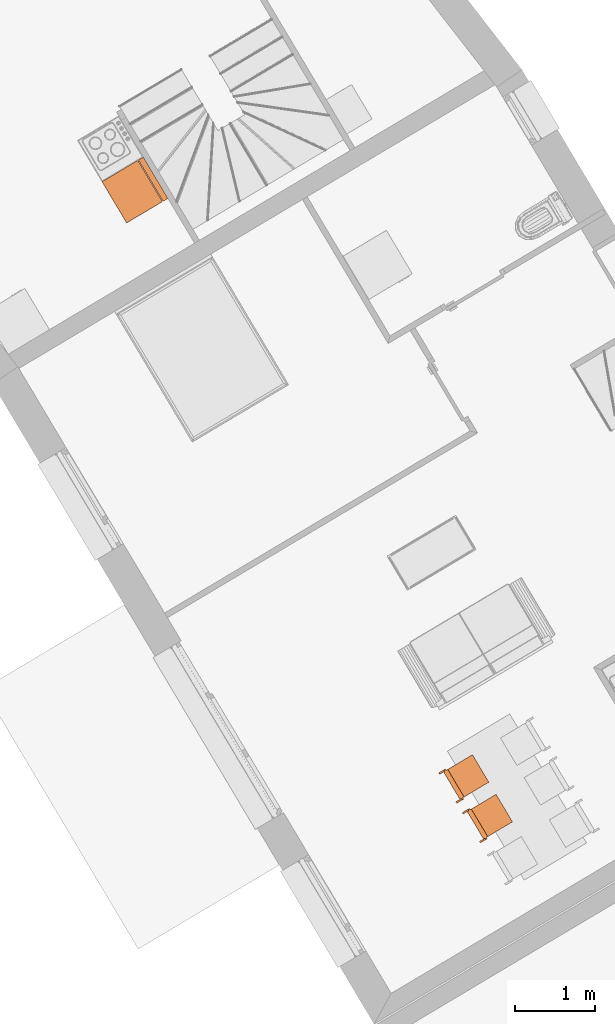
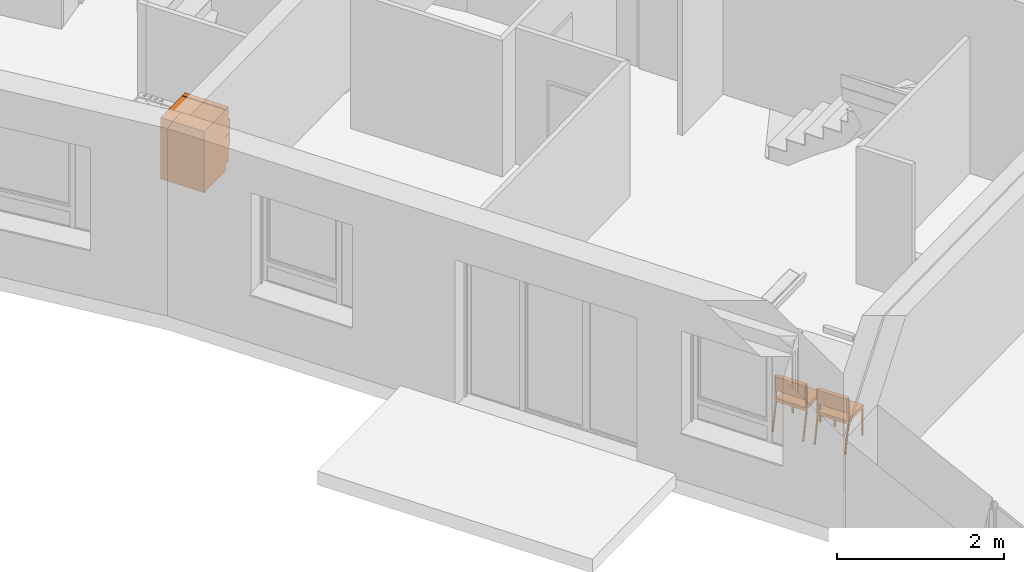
# One storey, part 173 of 195: 3 proxies.
"""IFC2X3 building model written with IfcOpenShell, lengths in metres."""

from ifc_helpers import new_model, entity, si_unit, converted_unit, derived_unit, money_unit, direction, frame, origin_with_axes, place, context, subcontext, project, spatial, open_shell, faceted_brep, surface_model, source, transform, mapped, type_object, element, save


model = new_model("IFC2X3")

# Units and contexts
model_context = context("Model", 3, precision=1e-05, world=origin_with_axes(), true_north=direction((0.0, 1.0)))
body_context = subcontext(model_context, "Body", "Model", "MODEL_VIEW")
ifc_project = project(units=[si_unit("LENGTHUNIT", "METRE"), si_unit("AREAUNIT", "SQUARE_METRE"), si_unit("VOLUMEUNIT", "CUBIC_METRE"), converted_unit("PLANEANGLEUNIT", "DEGREE", entity("IfcPlaneAngleMeasure", 0.0174532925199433), si_unit("PLANEANGLEUNIT", "RADIAN"), dimensions=[0, 0, 0, 0, 0, 0, 0]), money_unit("CHF"), converted_unit("TIMEUNIT", "Year", entity("IfcTimeMeasure", 31557600.0), si_unit("TIMEUNIT", "SECOND"), dimensions=[0, 0, 1, 0, 0, 0, 0]), si_unit("MASSUNIT", "GRAM", prefix="KILO"), si_unit("THERMODYNAMICTEMPERATUREUNIT", "DEGREE_CELSIUS"), si_unit("LUMINOUSINTENSITYUNIT", "LUMEN"), si_unit("ENERGYUNIT", "JOULE", prefix="MEGA"), derived_unit("THERMALCONDUCTANCEUNIT", [(si_unit("POWERUNIT", "WATT"), 1), (si_unit("LENGTHUNIT", "METRE"), -1), (si_unit("THERMODYNAMICTEMPERATUREUNIT", "KELVIN"), -1)]), derived_unit("SPECIFICHEATCAPACITYUNIT", [(si_unit("ENERGYUNIT", "JOULE"), 1), (si_unit("MASSUNIT", "GRAM", prefix="KILO"), -1), (si_unit("THERMODYNAMICTEMPERATUREUNIT", "KELVIN"), -1)]), derived_unit("MASSDENSITYUNIT", [(si_unit("MASSUNIT", "GRAM", prefix="KILO"), 1), (si_unit("VOLUMEUNIT", "CUBIC_METRE"), -1)])], contexts=[model_context])

# Site, building, storey
site_placement = place(None, origin_with_axes())
site = spatial("IfcSite", under=ifc_project, at=site_placement, Name="Site", CompositionType="ELEMENT")
building_placement = place(site_placement, origin_with_axes())
building = spatial("IfcBuilding", under=site, at=building_placement, Name="Bâtiment", CompositionType="ELEMENT")
storey_placement = place(building_placement, origin_with_axes())
storey = spatial("IfcBuildingStorey", under=building, at=storey_placement, Name="rdc", CompositionType="ELEMENT", Elevation=0.0)

# Proxies
building_element_proxy_type = type_object("IfcBuildingElementProxyType", PredefinedType="NOTDEFINED")
shared_shape_1 = source(origin_with_axes(), body_context, "Body", "SurfaceModel", [
    faceted_brep([(0.0, 0.08, 0.1), (0.0, 0.08, 0.9), (-0.6, 0.08, 0.9), (-0.6, 0.08, 0.1), (0.0, 0.6, 0.1), (0.0, 0.6, 0.9), (-0.6, 0.6, 0.9), (-0.6, 0.6, 0.1)], [[[0, 1, 2, 3]], [[4, 5, 1, 0]], [[1, 5, 6, 2]], [[3, 2, 6, 7]], [[0, 3, 7, 4]], [[7, 6, 5, 4]]]),
    faceted_brep([(0.0, 0.08, 0.0), (0.0, 0.08, 0.1), (-0.6, 0.08, 0.1), (-0.6, 0.08, 0.0), (0.0, 0.6, 0.0), (0.0, 0.6, 0.1), (-0.6, 0.6, 0.1), (-0.6, 0.6, 0.0)], [[[0, 1, 2, 3]], [[4, 5, 1, 0]], [[1, 5, 6, 2]], [[3, 2, 6, 7]], [[0, 3, 7, 4]], [[7, 6, 5, 4]]]),
    faceted_brep([(0.0, 0.07, 0.1), (0.0, 0.0, 0.1), (-0.6, 0.0, 0.1), (-0.6, 0.07, 0.1), (0.0, 0.07000000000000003, 0.494), (0.0, 0.0, 0.494), (-0.6, 0.0, 0.494), (-0.6, 0.07000000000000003, 0.494)], [[[0, 1, 2, 3]], [[4, 5, 1, 0]], [[1, 5, 6, 2]], [[3, 2, 6, 7]], [[0, 3, 7, 4]], [[7, 6, 5, 4]]]),
    faceted_brep([(0.0, 0.07, 0.5), (0.0, 0.0, 0.5), (-0.6, 0.0, 0.5), (-0.6, 0.07, 0.5), (0.0, 0.07000000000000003, 0.9), (0.0, 0.0, 0.9), (-0.6, 0.0, 0.9), (-0.6, 0.07000000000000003, 0.9)], [[[0, 1, 2, 3]], [[4, 5, 1, 0]], [[1, 5, 6, 2]], [[3, 2, 6, 7]], [[0, 3, 7, 4]], [[7, 6, 5, 4]]]),
    surface_model("IfcShellBasedSurfaceModel", [(-0.6, -0.03, 0.3), (-0.6, 0.0, 0.3), (-0.6, 0.0, 0.4940000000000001), (-0.6, -0.03, 0.4940000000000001)], [open_shell([[[0, 1, 2, 3]]])]),
    surface_model("IfcShellBasedSurfaceModel", [(-0.6, -0.03, 0.3), (-0.57, -0.03, 0.3), (-0.57, -0.03, 0.4940000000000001), (-0.6, -0.03, 0.4940000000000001)], [open_shell([[[0, 1, 2, 3]]])]),
    surface_model("IfcShellBasedSurfaceModel", [(-0.6, -0.03, 0.5), (-0.6, 0.0, 0.5), (-0.6, 0.0, 0.7), (-0.6, -0.03, 0.7)], [open_shell([[[0, 1, 2, 3]]])]),
    surface_model("IfcShellBasedSurfaceModel", [(-0.6, -0.03, 0.5), (-0.57, -0.03, 0.5), (-0.57, -0.03, 0.7), (-0.6, -0.03, 0.7)], [open_shell([[[0, 1, 2, 3]]])]),
])
proxy_placement = place(storey_placement, frame((9540.328571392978, -1044.371137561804, 57.7), z_axis=(0.0, 0.0, 1.0), x_axis=(-0.5118647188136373, 0.8590660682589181, 0.0)))
element("IfcBuildingElementProxy", 1, at=proxy_placement, inside=storey, type_object=building_element_proxy_type, Name="Obj.-019", context=body_context, shape_type="MappedRepresentation", body=[
    mapped(shared_shape_1, transform((0.0, 0.0, 0.0))),
])
shared_shape_2 = source(origin_with_axes(), body_context, "Body", "Brep", [
    faceted_brep([(-0.03999999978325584, 0.0, 0.0), (-0.03999999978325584, 0.01999999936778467, 0.0), (-0.01999999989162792, 0.01999999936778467, 0.0), (-0.01999999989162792, 0.0, 0.0), (-0.03999999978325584, 0.0, 0.4), (-0.03999999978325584, 0.01999999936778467, 0.4), (-0.01999999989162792, 0.01999999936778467, 0.4), (-0.01999999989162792, 0.0, 0.4)], [[[0, 1, 2, 3]], [[0, 4, 5, 1]], [[1, 5, 6, 2]], [[2, 6, 7, 3]], [[3, 7, 4, 0]], [[7, 6, 5, 4]]]),
    faceted_brep([(-0.4199999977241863, 0.0, 0.0), (-0.4199999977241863, 0.01999999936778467, 0.0), (-0.3999999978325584, 0.01999999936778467, 0.0), (-0.3999999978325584, 0.0, 0.0), (-0.4199999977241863, 0.0, 0.4), (-0.4199999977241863, 0.01999999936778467, 0.4), (-0.3999999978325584, 0.01999999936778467, 0.4), (-0.3999999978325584, 0.0, 0.4)], [[[0, 1, 2, 3]], [[0, 4, 5, 1]], [[1, 5, 6, 2]], [[2, 6, 7, 3]], [[3, 7, 4, 0]], [[7, 6, 5, 4]]]),
    faceted_brep([(-0.3999999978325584, 0.0, 0.4000000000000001), (-0.3999999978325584, 0.01999999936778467, 0.4000000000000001), (-0.03999999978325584, 0.01999999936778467, 0.4000000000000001), (-0.03999999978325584, 0.0, 0.4000000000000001), (-0.3999999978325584, 0.0, 0.4200000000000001), (-0.3999999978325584, 0.01999999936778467, 0.4200000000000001), (-0.03999999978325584, 0.01999999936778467, 0.4200000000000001), (-0.03999999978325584, 0.0, 0.4200000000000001)], [[[0, 1, 2, 3]], [[0, 4, 5, 1]], [[1, 5, 6, 2]], [[2, 6, 7, 3]], [[3, 7, 4, 0]], [[7, 6, 5, 4]]]),
    faceted_brep([(-0.03999999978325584, 0.01999999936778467, 0.4000000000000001), (-0.03999999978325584, 0.3799999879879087, 0.4000000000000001), (-0.01999999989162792, 0.3799999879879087, 0.4000000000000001), (-0.01999999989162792, 0.01999999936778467, 0.4000000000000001), (-0.03999999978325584, 0.01999999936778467, 0.4200000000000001), (-0.03999999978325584, 0.3799999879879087, 0.4200000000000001), (-0.01999999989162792, 0.3799999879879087, 0.4200000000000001), (-0.01999999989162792, 0.01999999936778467, 0.4200000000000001)], [[[0, 1, 2, 3]], [[0, 4, 5, 1]], [[1, 5, 6, 2]], [[2, 6, 7, 3]], [[3, 7, 4, 0]], [[7, 6, 5, 4]]]),
    faceted_brep([(-0.4199999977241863, 0.3799999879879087, 0.4000000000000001), (-0.4199999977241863, 0.3999999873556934, 0.4000000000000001), (-0.01999999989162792, 0.3999999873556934, 0.4000000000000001), (-0.01999999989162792, 0.3799999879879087, 0.4000000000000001), (-0.4199999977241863, 0.3799999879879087, 0.4200000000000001), (-0.4199999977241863, 0.3999999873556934, 0.4200000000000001), (-0.01999999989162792, 0.3999999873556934, 0.4200000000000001), (-0.01999999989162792, 0.3799999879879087, 0.4200000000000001)], [[[0, 1, 2, 3]], [[0, 4, 5, 1]], [[1, 5, 6, 2]], [[2, 6, 7, 3]], [[3, 7, 4, 0]], [[7, 6, 5, 4]]]),
    faceted_brep([(-0.4199999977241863, 0.01999999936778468, 0.4000000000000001), (-0.4199999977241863, 0.3799999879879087, 0.4000000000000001), (-0.3999999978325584, 0.3799999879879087, 0.4000000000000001), (-0.3999999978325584, 0.01999999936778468, 0.4000000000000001), (-0.4199999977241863, 0.01999999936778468, 0.4200000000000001), (-0.4199999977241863, 0.3799999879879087, 0.4200000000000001), (-0.3999999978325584, 0.3799999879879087, 0.4200000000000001), (-0.3999999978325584, 0.01999999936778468, 0.4200000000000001)], [[[0, 1, 2, 3]], [[0, 4, 5, 1]], [[1, 5, 6, 2]], [[2, 6, 7, 3]], [[3, 7, 4, 0]], [[7, 6, 5, 4]]]),
    faceted_brep([(-0.4199999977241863, 0.0, 0.4), (-0.4199999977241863, 0.3999999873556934, 0.4), (-0.01999999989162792, 0.3999999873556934, 0.4), (-0.01999999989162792, 0.0, 0.4), (-0.4199999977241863, 0.0, 0.45), (-0.4199999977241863, 0.3999999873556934, 0.45), (-0.01999999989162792, 0.3999999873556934, 0.45), (-0.01999999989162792, 0.0, 0.45)], [[[0, 1, 2, 3]], [[0, 4, 5, 1]], [[1, 5, 6, 2]], [[2, 6, 7, 3]], [[3, 7, 4, 0]], [[7, 6, 5, 4]]]),
    faceted_brep([(-0.01999999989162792, 0.3799999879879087, 0.38), (-0.01999999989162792, 0.3999999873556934, 0.38), (0.0, 0.3999999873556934, 0.38), (0.0, 0.3799999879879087, 0.38), (-0.01999999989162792, 0.3799999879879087, 0.78), (-0.01999999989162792, 0.3999999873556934, 0.78), (0.0, 0.3999999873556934, 0.78), (0.0, 0.3799999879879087, 0.78)], [[[0, 1, 2, 3]], [[0, 4, 5, 1]], [[1, 5, 6, 2]], [[2, 6, 7, 3]], [[3, 7, 4, 0]], [[7, 6, 5, 4]]]),
    faceted_brep([(-0.4399999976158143, 0.3799999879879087, 0.38), (-0.4399999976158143, 0.3999999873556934, 0.38), (-0.4199999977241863, 0.3999999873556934, 0.38), (-0.4199999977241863, 0.3799999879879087, 0.38), (-0.4399999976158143, 0.3799999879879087, 0.78), (-0.4399999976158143, 0.3999999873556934, 0.78), (-0.4199999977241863, 0.3999999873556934, 0.78), (-0.4199999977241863, 0.3799999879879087, 0.78)], [[[0, 1, 2, 3]], [[0, 4, 5, 1]], [[1, 5, 6, 2]], [[2, 6, 7, 3]], [[3, 7, 4, 0]], [[7, 6, 5, 4]]]),
    faceted_brep([(-0.4199999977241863, 0.3599999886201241, 0.5800000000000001), (-0.4199999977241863, 0.419999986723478, 0.5800000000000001), (-0.01999999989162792, 0.419999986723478, 0.5800000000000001), (-0.01999999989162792, 0.3599999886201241, 0.5800000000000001), (-0.4199999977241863, 0.3599999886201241, 0.78), (-0.4199999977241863, 0.419999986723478, 0.78), (-0.01999999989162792, 0.419999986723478, 0.78), (-0.01999999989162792, 0.3599999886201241, 0.78)], [[[0, 1, 2, 3]], [[0, 4, 5, 1]], [[1, 5, 6, 2]], [[2, 6, 7, 3]], [[3, 7, 4, 0]], [[7, 6, 5, 4]]]),
    faceted_brep([(-0.01999999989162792, 0.4599999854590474, 0.0), (-0.01999999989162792, 0.4795709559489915, 0.004120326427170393), (0.0, 0.4795709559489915, 0.004120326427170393), (0.0, 0.4599999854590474, 0.0), (-0.01999999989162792, 0.379997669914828, 0.379999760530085), (-0.01999999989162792, 0.3995686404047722, 0.3841200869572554), (0.0, 0.3995686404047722, 0.3841200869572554), (0.0, 0.379997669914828, 0.379999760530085)], [[[0, 1, 2, 3]], [[0, 4, 5, 1]], [[1, 5, 6, 2]], [[2, 6, 7, 3]], [[3, 7, 4, 0]], [[7, 6, 5, 4]]]),
    faceted_brep([(-0.4399999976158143, 0.4599999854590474, 0.0), (-0.4399999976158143, 0.4795709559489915, 0.004120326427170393), (-0.4199999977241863, 0.4795709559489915, 0.004120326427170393), (-0.4199999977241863, 0.4599999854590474, 0.0), (-0.4399999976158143, 0.379997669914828, 0.379999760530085), (-0.4399999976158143, 0.3995686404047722, 0.3841200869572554), (-0.4199999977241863, 0.3995686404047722, 0.3841200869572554), (-0.4199999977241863, 0.379997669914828, 0.379999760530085)], [[[0, 1, 2, 3]], [[0, 4, 5, 1]], [[1, 5, 6, 2]], [[2, 6, 7, 3]], [[3, 7, 4, 0]], [[7, 6, 5, 4]]]),
])
for number, where, z_axis, x_axis, name in (
    (2, (9544.72742721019, -1052.317996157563, 57.0), (0.0, 0.0, 1.0), (-0.5118298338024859, 0.8590868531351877, 0.0), "Obj.-027"),
    (3, (9544.432168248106, -1051.822415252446, 57.0), (0.0, 0.0, 1.0), (-0.5118298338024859, 0.8590868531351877, 0.0), "Obj.-027"),
):
    element("IfcBuildingElementProxy", number, at=place(storey_placement, frame(where, z_axis=z_axis, x_axis=x_axis)), inside=storey, type_object=building_element_proxy_type, Name=name, context=body_context, shape_type="MappedRepresentation", body=[
        mapped(shared_shape_2, transform((0.0, 0.0, 0.0))),
    ])

save(model, "model.ifc")
